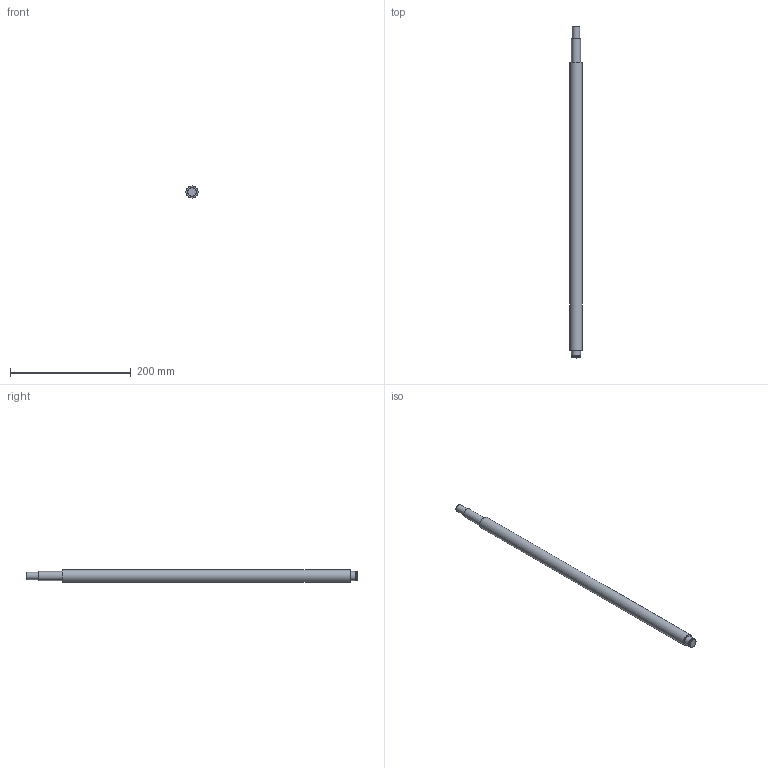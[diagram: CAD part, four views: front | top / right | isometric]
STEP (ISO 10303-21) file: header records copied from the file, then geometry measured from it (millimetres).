
FILE_DESCRIPTION(/* description */ (''),/* implementation_level */ '2;1');
FILE_NAME(/* name */ 'C:\Users\David\Desktop\stepFiles\Profilfuehrung\KUS2005x550.stp',/* time_stamp */ '2018-06-24T15:12:09+02:00',/* author */ ('David'),/* organization */ (''),/* preprocessor_version */ 'ST-DEVELOPER v17',/* originating_system */ 'Autodesk Inventor 2019',/* authorisation */ '');
FILE_SCHEMA (('AUTOMOTIVE_DESIGN { 1 0 10303 214 3 1 1 }'));
Length unit declared in the file: millimetre
Products named in the file (1): SFU2005xvaiabel
Bounding box: 20 x 550 x 20 mm (x, y, z)
Volume: 161452.9 mm3; surface area: 33854.9 mm2
Topology: 1 solids, 1 shells, 15 faces, 34 edges, 26 vertices
Faces by surface type: plane 7, cylinder 6, cone 2
Full cylindrical faces by diameter (mm): 12 x1, 14.3 x1, 15 x3, 20 x1
Entity records: 493 total; most frequent: DIRECTION 92, CARTESIAN_POINT 76, ORIENTED_EDGE 68, AXIS2_PLACEMENT_3D 42, EDGE_CURVE 34, CIRCLE 26, VERTEX_POINT 26, EDGE_LOOP 20
